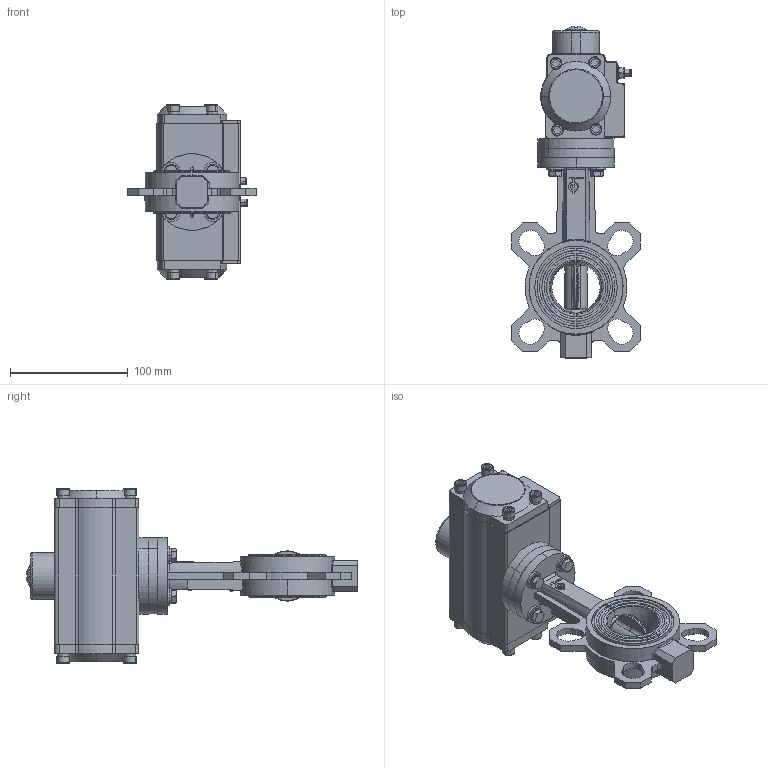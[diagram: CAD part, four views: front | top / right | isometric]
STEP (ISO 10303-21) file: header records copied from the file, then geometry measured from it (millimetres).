
FILE_DESCRIPTION (( 'STEP AP214' ), '1' );
FILE_NAME ('VP444X-N03XX0040.step', '2022-06-27T15:44:05', ( '' ), ( '' ), 'SwSTEP 2.0', 'SolidWorks 2020', '' );
FILE_SCHEMA (( 'AUTOMOTIVE_DESIGN' ));
Length unit declared in the file: millimetre
Products named in the file (1): VP444X-N03XX0040
Bounding box: 109.17 x 281.82 x 148.56 mm (x, y, z)
Surface area: 126564.3 mm2 (no closed solid volume)
Topology: 0 solids, 108 shells, 841 faces, 4796 edges, 4045 vertices
Faces by surface type: plane 403, cylinder 229, bspline 120, cone 85, torus 4
Entity records: 74247 total; most frequent: CARTESIAN_POINT 31166, ORIENTED_EDGE 6395, DIRECTION 5665, EDGE_CURVE 4792, VERTEX_POINT 4045, VECTOR 2591, LINE 2591, AXIS2_PLACEMENT_3D 1537
